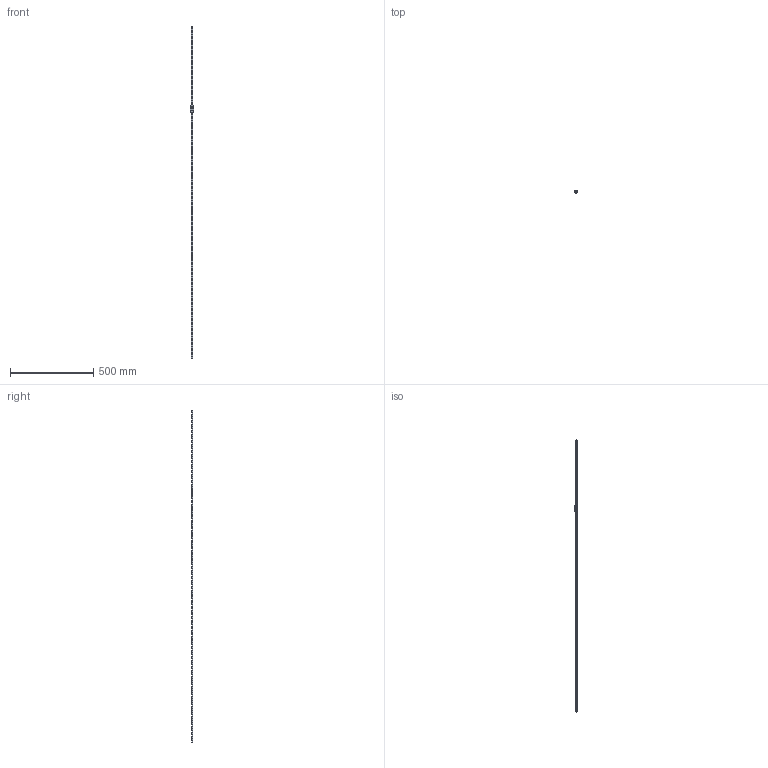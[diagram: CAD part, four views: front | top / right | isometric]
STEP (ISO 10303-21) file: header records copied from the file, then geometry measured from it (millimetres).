
FILE_DESCRIPTION((''),'2;1');
FILE_NAME('BMHS9-LU1Z0-2000-D0_1_ASM_1_ASM','2020-11-25T11:04:38',('TWVS2025'),(''),'CREO PARAMETRIC BY PTC INC, 2018420','CREO PARAMETRIC BY PTC INC, 2018420','');
FILE_SCHEMA(('CONFIG_CONTROL_DESIGN'));
Length unit declared in the file: millimetre
Products named in the file (3): IR-BMH9-2000_1; BC-BMHC9-LUS-Z0_1; BMHS9-LU1Z0-2000-D0_1_ASM_1_ASM
Assembly tree (2 placements, depth 2):
  BMHS9-LU1Z0-2000-D0_1_ASM_1_ASM
    IR-BMH9-2000_1
    BC-BMHC9-LUS-Z0_1
Bounding box: 20 x 10 x 2000 mm (x, y, z)
Volume: 100624.3 mm3; surface area: 74728.5 mm2
Topology: 5 solids, 6 shells, 1204 faces, 3229 edges, 2064 vertices
Faces by surface type: cylinder 558, plane 328, cone 216, sphere 86, torus 16
Entity records: 41049 total; most frequent: CARTESIAN_POINT 9736, DIRECTION 6864, ORIENTED_EDGE 6326, EDGE_CURVE 3167, AXIS2_PLACEMENT_3D 2749, VERTEX_POINT 2064, EDGE_LOOP 1557, CIRCLE 1540
